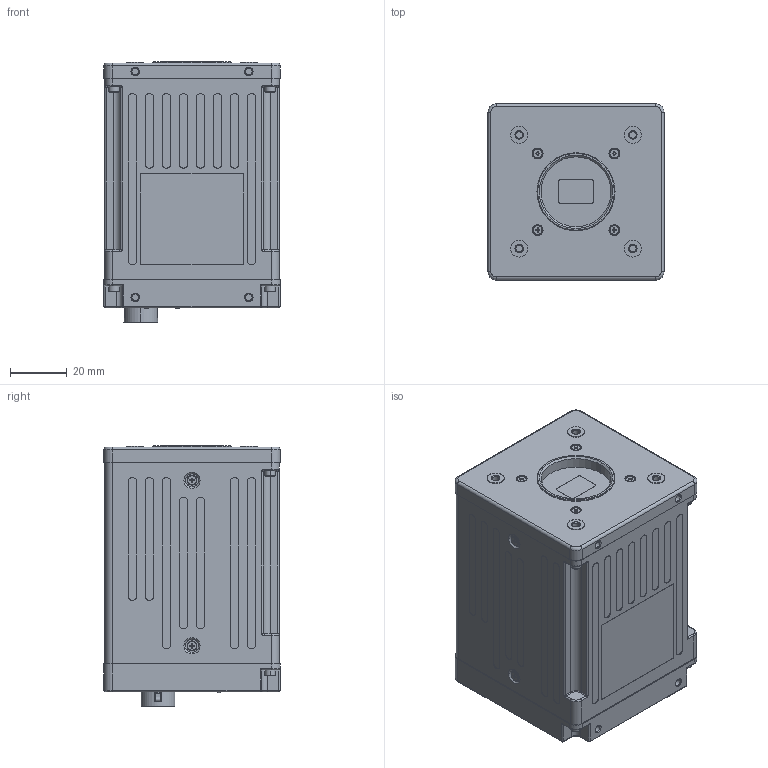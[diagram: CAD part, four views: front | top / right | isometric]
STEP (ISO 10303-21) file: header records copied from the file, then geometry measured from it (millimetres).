
FILE_DESCRIPTION((''),'2;1');
FILE_NAME('FS-3200D-10GE_MOCK_ASM_ASM','2019-10-25T',('aso'),(''),'CREO PARAMETRIC BY PTC INC, 2016260','CREO PARAMETRIC BY PTC INC, 2016260','');
FILE_SCHEMA(('CONFIG_CONTROL_DESIGN'));
Length unit declared in the file: millimetre
Products named in the file (1): FS-3200D-10GE_MOCK_ASM_ASM
Bounding box: 62 x 62 x 91.8 mm (x, y, z)
Surface area: 35668.9 mm2 (no closed solid volume)
Topology: 0 solids, 12 shells, 1783 faces, 4946 edges, 3231 vertices
Faces by surface type: plane 1002, cylinder 534, cone 121, torus 58, bspline 40, sphere 28
Entity records: 58898 total; most frequent: CARTESIAN_POINT 12936, ORIENTED_EDGE 9750, DIRECTION 9410, EDGE_CURVE 4910, VERTEX_POINT 3231, AXIS2_PLACEMENT_3D 3185, VECTOR 3040, LINE 3040
